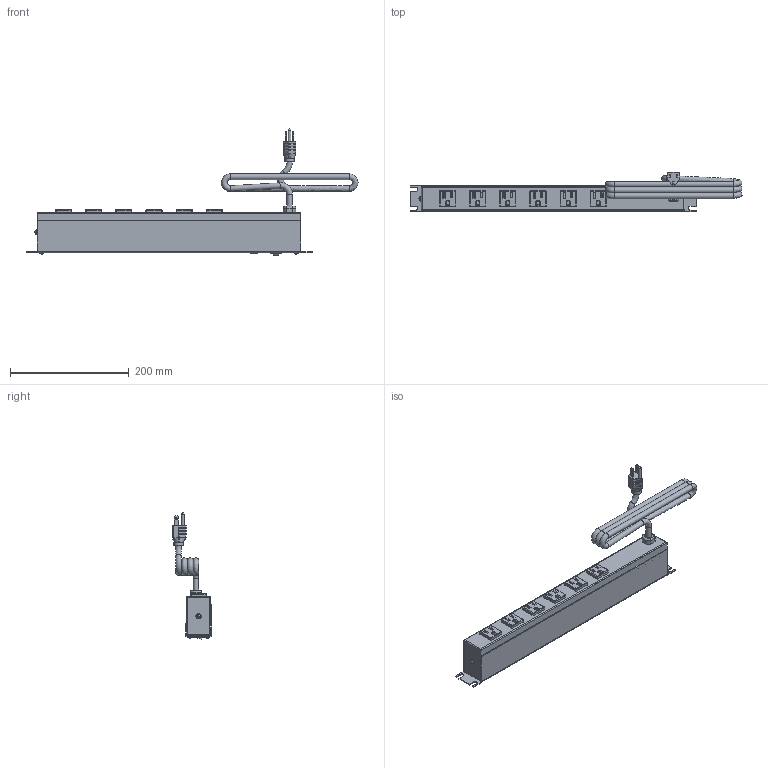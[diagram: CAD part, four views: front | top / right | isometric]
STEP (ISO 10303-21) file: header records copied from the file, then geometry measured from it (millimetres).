
FILE_DESCRIPTION((''),'2;1');
FILE_NAME('E:\Dutton\Manufacturing\drawings\Updated 2009\POWER BARS\1583 RA series\STEP''s\1583T6A1BKRA.stp','2010-01-11T07:05:49',('tfoster'),(''),'Autodesk Inventor 2010','Autodesk Inventor 2010','');
FILE_SCHEMA(('AUTOMOTIVE_DESIGN { 1 0 10303 214 1 1 1 1 }'));
Products named in the file (10): 1583T6A1BKRA; 1583 Front plate; 1583 Back Plate; #6 - 0.375 Type A screw; toothwasher; round head 1-way 8-32 x 0.5 screw; Reset Switch; Cored 2; Receptacle; Pilot light
Assembly tree (17 placements, depth 2):
  1583T6A1BKRA
    1583 Front plate
    1583 Back Plate
    #6 - 0.375 Type A screw  x4
    toothwasher
    round head 1-way 8-32 x 0.5 screw
    Reset Switch
    Cored 2
    Receptacle  x6
    Pilot light
Bounding box: 560.01 x 66.07 x 213.78 mm (x, y, z)
Volume: 350091.6 mm3; surface area: 299717 mm2
Topology: 17 solids, 17 shells, 913 faces, 2672 edges, 1797 vertices
Faces by surface type: plane 600, cylinder 164, bspline 81, sphere 30, cone 23, torus 15
Full cylindrical faces by diameter (mm): 1.803 x3, 1.905 x2, 2.997 x4, 3 x2, 4.3 x1, 4.775 x1, 4.801 x1, 5.563 x4, 7.849 x1, 9.5 x5, 11 x1, 15.621 x1, 19.05 x1
Entity records: 22499 total; most frequent: CARTESIAN_POINT 7713, ORIENTED_EDGE 3208, DIRECTION 2665, EDGE_CURVE 1604, VERTEX_POINT 1127, VECTOR 1043, LINE 1043, AXIS2_PLACEMENT_3D 811
